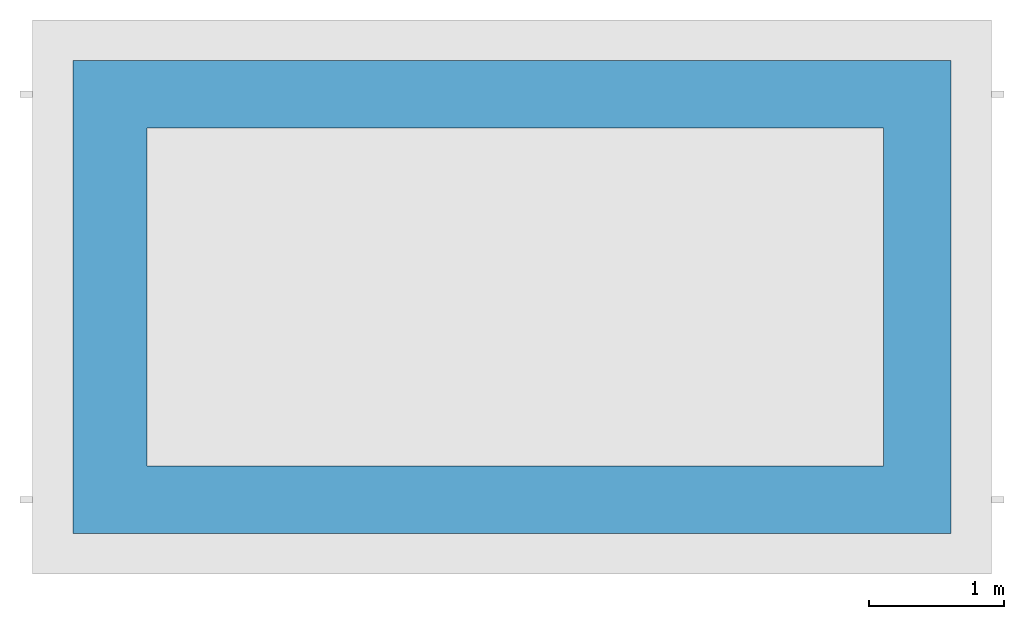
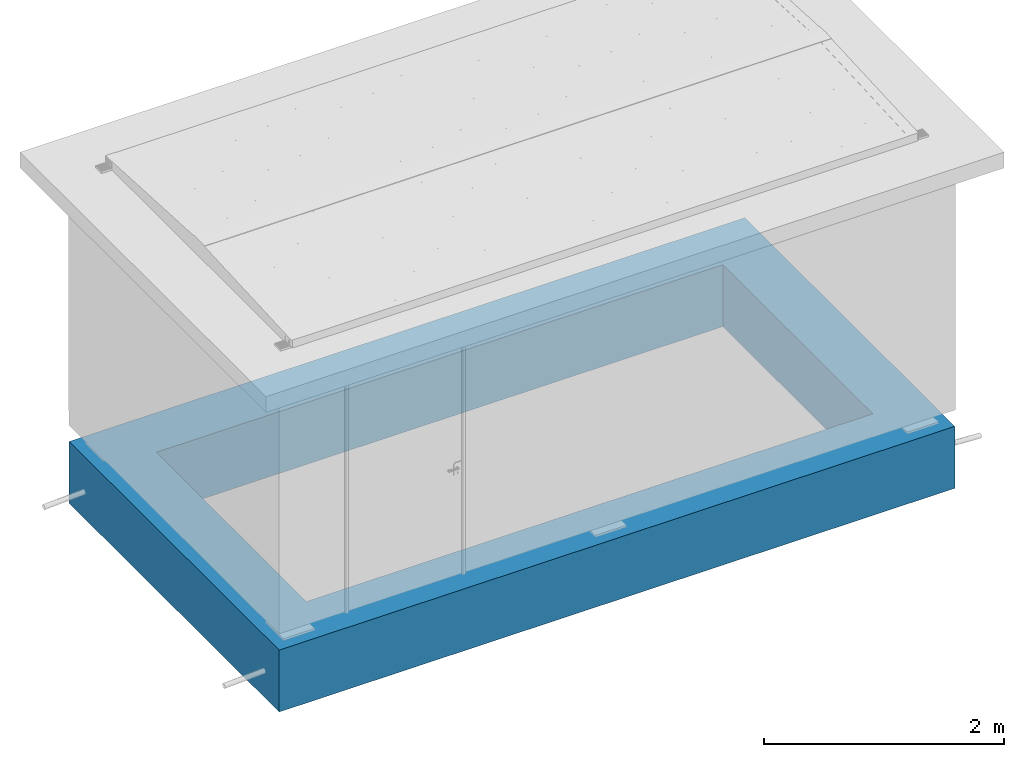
# One storey, incomplete: 1 slab.
"""IFC4 building model written with IfcOpenShell, lengths in metres."""

from ifc_helpers import new_model, entity, si_unit, converted_unit, direction, frame, origin, place, context, subcontext, project, spatial, polyline, outline, extrude, material, type_object, element, save


model = new_model("IFC4")

# Units and contexts
model_context = context("Model", 3, precision=1e-05, world=origin(), true_north=direction((6.123031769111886e-17, 1.0)))
body_context = subcontext(model_context, "Body", "Model", "MODEL_VIEW")
ifc_project = project(units=[si_unit("LENGTHUNIT", "METRE"), converted_unit("PLANEANGLEUNIT", "DEGREE", entity("IfcPlaneAngleMeasure", 0.017453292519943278), si_unit("PLANEANGLEUNIT", "RADIAN"), dimensions=[0, 0, 0, 0, 0, 0, 0]), si_unit("AREAUNIT", "SQUARE_METRE")], contexts=[model_context])

# Site, building, storey
site_placement = place(None, origin())
site = spatial("IfcSite", under=ifc_project, at=site_placement, Name="Default", CompositionType="ELEMENT")
building_placement = place(site_placement, origin())
building = spatial("IfcBuilding", under=site, at=building_placement, CompositionType="ELEMENT")
storey_placement = place(building_placement, origin())
storey = spatial("IfcBuildingStorey", under=building, at=storey_placement, Name="DB_Bezugshoehe_max_Bahnsteigkante", CompositionType="ELEMENT", Elevation=0.0)

# Slab
ifc_material = material(Name="DB_Ortbeton", Category="DB_Beton")
slab_type = type_object("IfcSlabType", Name="DB_Pavillon_6500_Fundament:DB_Pavillon_6500_Fundament", PredefinedType="BASESLAB", material=ifc_material)
slab_placement = place(storey_placement, origin())
element("IfcSlab", 1, at=slab_placement, inside=storey, type_object=slab_type, Name="DB_Pavillon_6500_Fundament:DB_Pavillon_6500_Fundament", ObjectType="DB_Pavillon_6500_Fundament:DB_Pavillon_6500_Fundament", PredefinedType="BASESLAB", context=body_context, shape_type="SweptSolid", body=[
    extrude(outline(polyline([(-1.500000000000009, -1.1666666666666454), (2.500000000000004, -1.1666666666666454), (3.0, -1.1666666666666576), (3.0, 2.333333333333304), (-3.500000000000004, 2.3333333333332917), (-3.5000000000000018, -1.1666666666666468), (-1.500000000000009, -1.1666666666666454)]), holes=[polyline([(-2.9500000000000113, -0.66666666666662), (-2.9500000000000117, 1.8333333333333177), (2.4999999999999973, 1.8333333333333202), (2.4999999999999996, -0.6666666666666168), (-2.9500000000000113, -0.66666666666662)])]), frame((1.7500000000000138, 0.9166666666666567, 0.0)), (0.0, 0.0, 1.0), 0.6300000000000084),
])

save(model, "model.ifc")
